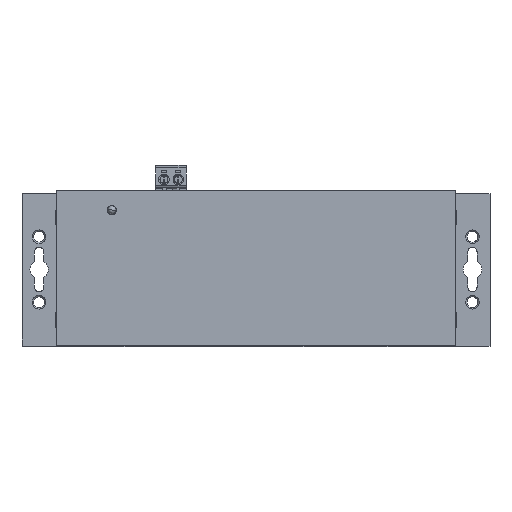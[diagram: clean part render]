
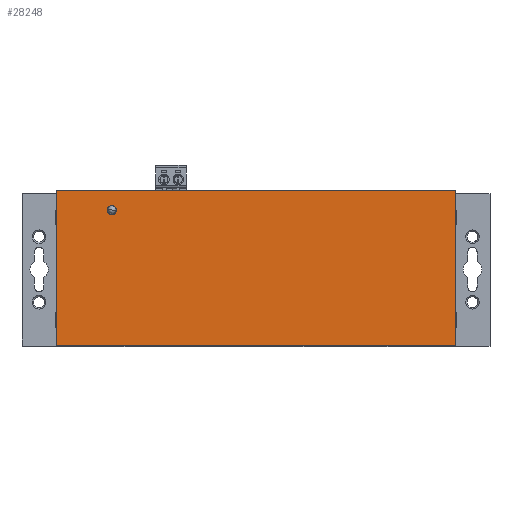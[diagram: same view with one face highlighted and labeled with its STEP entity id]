
A CAD part, top view. The second image highlights one B-rep face of the part: STEP entity #28248.
In plain terms, the highlighted planar face has unit normal (0, 0, 1).
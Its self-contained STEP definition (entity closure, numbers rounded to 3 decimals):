
#2860 = PLANE('',#2861);
#2861 = AXIS2_PLACEMENT_3D('',#2862,#2863,#2864);
#2862 = CARTESIAN_POINT('',(9.25,29.942,13.342));
#2863 = DIRECTION('',(-1.,0.,0.));
#2864 = DIRECTION('',(0.,0.,-1.));
#5059 = PLANE('',#5060);
#5060 = AXIS2_PLACEMENT_3D('',#5061,#5062,#5063);
#5061 = CARTESIAN_POINT('',(161.85,29.942,13.342));
#5062 = DIRECTION('',(1.,0.,0.));
#5063 = DIRECTION('',(0.,0.,1.));
#15291 = PLANE('',#15292);
#15292 = AXIS2_PLACEMENT_3D('',#15293,#15294,#15295);
#15293 = CARTESIAN_POINT('',(-3.75,59.2,0.));
#15294 = DIRECTION('',(0.,1.,0.));
#15295 = DIRECTION('',(0.,0.,1.));
#19483 = VERTEX_POINT('',#19484);
#19484 = CARTESIAN_POINT('',(161.85,59.2,26.));
#19531 = VERTEX_POINT('',#19532);
#19532 = CARTESIAN_POINT('',(9.25,59.2,26.));
#19553 = EDGE_CURVE('',#19531,#19483,#19554,.T.);
#19554 = SURFACE_CURVE('',#19555,(#19559,#19566),.PCURVE_S1.);
#19555 = LINE('',#19556,#19557);
#19556 = CARTESIAN_POINT('',(-3.75,59.2,26.));
#19557 = VECTOR('',#19558,1.);
#19558 = DIRECTION('',(1.,0.,0.));
#19559 = PCURVE('',#15291,#19560);
#19560 = DEFINITIONAL_REPRESENTATION('',(#19561),#19565);
#19561 = LINE('',#19562,#19563);
#19562 = CARTESIAN_POINT('',(26.,0.));
#19563 = VECTOR('',#19564,1.);
#19564 = DIRECTION('',(0.,1.));
#19565 = ( GEOMETRIC_REPRESENTATION_CONTEXT(2) 
PARAMETRIC_REPRESENTATION_CONTEXT() REPRESENTATION_CONTEXT('2D SPACE',''
  ) );
#19566 = PCURVE('',#19567,#19572);
#19567 = PLANE('',#19568);
#19568 = AXIS2_PLACEMENT_3D('',#19569,#19570,#19571);
#19569 = CARTESIAN_POINT('',(-3.75,0.,26.));
#19570 = DIRECTION('',(0.,0.,1.));
#19571 = DIRECTION('',(1.,0.,0.));
#19572 = DEFINITIONAL_REPRESENTATION('',(#19573),#19577);
#19573 = LINE('',#19574,#19575);
#19574 = CARTESIAN_POINT('',(0.,59.2));
#19575 = VECTOR('',#19576,1.);
#19576 = DIRECTION('',(1.,0.));
#19577 = ( GEOMETRIC_REPRESENTATION_CONTEXT(2) 
PARAMETRIC_REPRESENTATION_CONTEXT() REPRESENTATION_CONTEXT('2D SPACE',''
  ) );
#23675 = PLANE('',#23676);
#23676 = AXIS2_PLACEMENT_3D('',#23677,#23678,#23679);
#23677 = CARTESIAN_POINT('',(-3.75,0.,0.));
#23678 = DIRECTION('',(0.,1.,0.));
#23679 = DIRECTION('',(0.,0.,1.));
#24604 = CYLINDRICAL_SURFACE('',#24605,1.8);
#24605 = AXIS2_PLACEMENT_3D('',#24606,#24607,#24608);
#24606 = CARTESIAN_POINT('',(30.55,51.8,20.));
#24607 = DIRECTION('',(0.,0.,1.));
#24608 = DIRECTION('',(1.,0.,0.));
#27497 = VERTEX_POINT('',#27498);
#27498 = CARTESIAN_POINT('',(161.85,0.,26.));
#27597 = EDGE_CURVE('',#27497,#19483,#27598,.T.);
#27598 = SURFACE_CURVE('',#27599,(#27603,#27610),.PCURVE_S1.);
#27599 = LINE('',#27600,#27601);
#27600 = CARTESIAN_POINT('',(161.85,0.,26.));
#27601 = VECTOR('',#27602,1.);
#27602 = DIRECTION('',(0.,1.,0.));
#27603 = PCURVE('',#5059,#27604);
#27604 = DEFINITIONAL_REPRESENTATION('',(#27605),#27609);
#27605 = LINE('',#27606,#27607);
#27606 = CARTESIAN_POINT('',(12.658,29.942));
#27607 = VECTOR('',#27608,1.);
#27608 = DIRECTION('',(0.,-1.));
#27609 = ( GEOMETRIC_REPRESENTATION_CONTEXT(2) 
PARAMETRIC_REPRESENTATION_CONTEXT() REPRESENTATION_CONTEXT('2D SPACE',''
  ) );
#27610 = PCURVE('',#19567,#27611);
#27611 = DEFINITIONAL_REPRESENTATION('',(#27612),#27615);
#27612 = B_SPLINE_CURVE_WITH_KNOTS('',1,(#27613,#27614),.UNSPECIFIED.,
  .F.,.F.,(2,2),(-5.92,65.12),.PIECEWISE_BEZIER_KNOTS.);
#27613 = CARTESIAN_POINT('',(165.6,-5.92));
#27614 = CARTESIAN_POINT('',(165.6,65.12));
#27615 = ( GEOMETRIC_REPRESENTATION_CONTEXT(2) 
PARAMETRIC_REPRESENTATION_CONTEXT() REPRESENTATION_CONTEXT('2D SPACE',''
  ) );
#28248 = ADVANCED_FACE('',(#28249,#28296),#19567,.T.);
#28249 = FACE_BOUND('',#28250,.T.);
#28250 = EDGE_LOOP('',(#28251,#28252,#28274,#28295));
#28251 = ORIENTED_EDGE('',*,*,#19553,.F.);
#28252 = ORIENTED_EDGE('',*,*,#28253,.F.);
#28253 = EDGE_CURVE('',#28254,#19531,#28256,.T.);
#28254 = VERTEX_POINT('',#28255);
#28255 = CARTESIAN_POINT('',(9.25,0.,26.));
#28256 = SURFACE_CURVE('',#28257,(#28261,#28267),.PCURVE_S1.);
#28257 = LINE('',#28258,#28259);
#28258 = CARTESIAN_POINT('',(9.25,0.,26.));
#28259 = VECTOR('',#28260,1.);
#28260 = DIRECTION('',(0.,1.,0.));
#28261 = PCURVE('',#19567,#28262);
#28262 = DEFINITIONAL_REPRESENTATION('',(#28263),#28266);
#28263 = B_SPLINE_CURVE_WITH_KNOTS('',1,(#28264,#28265),.UNSPECIFIED.,
  .F.,.F.,(2,2),(-5.92,65.12),.PIECEWISE_BEZIER_KNOTS.);
#28264 = CARTESIAN_POINT('',(13.,-5.92));
#28265 = CARTESIAN_POINT('',(13.,65.12));
#28266 = ( GEOMETRIC_REPRESENTATION_CONTEXT(2) 
PARAMETRIC_REPRESENTATION_CONTEXT() REPRESENTATION_CONTEXT('2D SPACE',''
  ) );
#28267 = PCURVE('',#2860,#28268);
#28268 = DEFINITIONAL_REPRESENTATION('',(#28269),#28273);
#28269 = LINE('',#28270,#28271);
#28270 = CARTESIAN_POINT('',(-12.658,29.942));
#28271 = VECTOR('',#28272,1.);
#28272 = DIRECTION('',(0.,-1.));
#28273 = ( GEOMETRIC_REPRESENTATION_CONTEXT(2) 
PARAMETRIC_REPRESENTATION_CONTEXT() REPRESENTATION_CONTEXT('2D SPACE',''
  ) );
#28274 = ORIENTED_EDGE('',*,*,#28275,.T.);
#28275 = EDGE_CURVE('',#28254,#27497,#28276,.T.);
#28276 = SURFACE_CURVE('',#28277,(#28281,#28288),.PCURVE_S1.);
#28277 = LINE('',#28278,#28279);
#28278 = CARTESIAN_POINT('',(-3.75,0.,26.));
#28279 = VECTOR('',#28280,1.);
#28280 = DIRECTION('',(1.,0.,0.));
#28281 = PCURVE('',#19567,#28282);
#28282 = DEFINITIONAL_REPRESENTATION('',(#28283),#28287);
#28283 = LINE('',#28284,#28285);
#28284 = CARTESIAN_POINT('',(0.,0.));
#28285 = VECTOR('',#28286,1.);
#28286 = DIRECTION('',(1.,0.));
#28287 = ( GEOMETRIC_REPRESENTATION_CONTEXT(2) 
PARAMETRIC_REPRESENTATION_CONTEXT() REPRESENTATION_CONTEXT('2D SPACE',''
  ) );
#28288 = PCURVE('',#23675,#28289);
#28289 = DEFINITIONAL_REPRESENTATION('',(#28290),#28294);
#28290 = LINE('',#28291,#28292);
#28291 = CARTESIAN_POINT('',(26.,0.));
#28292 = VECTOR('',#28293,1.);
#28293 = DIRECTION('',(0.,1.));
#28294 = ( GEOMETRIC_REPRESENTATION_CONTEXT(2) 
PARAMETRIC_REPRESENTATION_CONTEXT() REPRESENTATION_CONTEXT('2D SPACE',''
  ) );
#28295 = ORIENTED_EDGE('',*,*,#27597,.T.);
#28296 = FACE_BOUND('',#28297,.T.);
#28297 = EDGE_LOOP('',(#28298));
#28298 = ORIENTED_EDGE('',*,*,#28299,.F.);
#28299 = EDGE_CURVE('',#28300,#28300,#28302,.T.);
#28300 = VERTEX_POINT('',#28301);
#28301 = CARTESIAN_POINT('',(32.35,51.8,26.));
#28302 = SURFACE_CURVE('',#28303,(#28308,#28315),.PCURVE_S1.);
#28303 = CIRCLE('',#28304,1.8);
#28304 = AXIS2_PLACEMENT_3D('',#28305,#28306,#28307);
#28305 = CARTESIAN_POINT('',(30.55,51.8,26.));
#28306 = DIRECTION('',(0.,0.,1.));
#28307 = DIRECTION('',(1.,0.,0.));
#28308 = PCURVE('',#19567,#28309);
#28309 = DEFINITIONAL_REPRESENTATION('',(#28310),#28314);
#28310 = CIRCLE('',#28311,1.8);
#28311 = AXIS2_PLACEMENT_2D('',#28312,#28313);
#28312 = CARTESIAN_POINT('',(34.3,51.8));
#28313 = DIRECTION('',(1.,0.));
#28314 = ( GEOMETRIC_REPRESENTATION_CONTEXT(2) 
PARAMETRIC_REPRESENTATION_CONTEXT() REPRESENTATION_CONTEXT('2D SPACE',''
  ) );
#28315 = PCURVE('',#24604,#28316);
#28316 = DEFINITIONAL_REPRESENTATION('',(#28317),#28321);
#28317 = LINE('',#28318,#28319);
#28318 = CARTESIAN_POINT('',(0.,6.));
#28319 = VECTOR('',#28320,1.);
#28320 = DIRECTION('',(1.,0.));
#28321 = ( GEOMETRIC_REPRESENTATION_CONTEXT(2) 
PARAMETRIC_REPRESENTATION_CONTEXT() REPRESENTATION_CONTEXT('2D SPACE',''
  ) );
